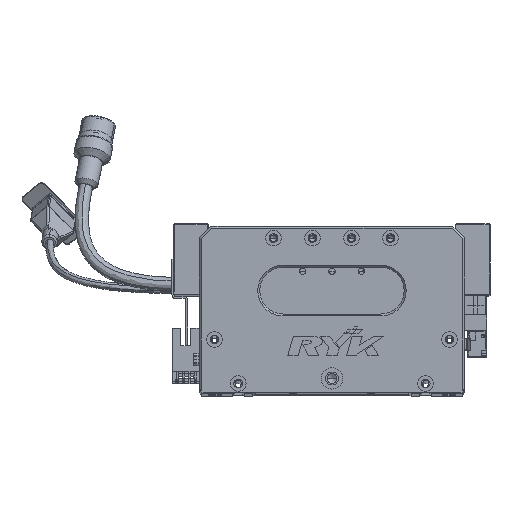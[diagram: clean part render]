
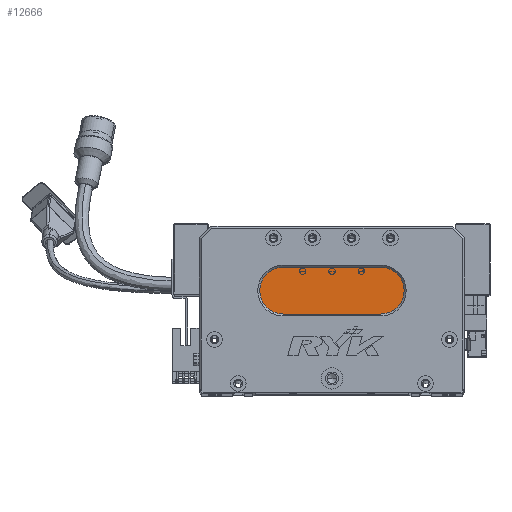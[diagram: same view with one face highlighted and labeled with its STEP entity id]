
A CAD part, top view. The second image highlights one B-rep face of the part: STEP entity #12666.
In plain terms, the highlighted planar face has unit normal (0, 0, 1) as drawn and (0, 0, -1) by its records, which use the part's own axes.
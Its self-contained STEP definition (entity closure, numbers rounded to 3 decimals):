
#350 = DIRECTION ( 'NONE',  ( -1., 0., 0. ) ) ;
#2346 = FACE_OUTER_BOUND ( 'NONE', #32888, .T. ) ;
#3706 = ORIENTED_EDGE ( 'NONE', *, *, #74663, .T. ) ;
#3775 = DIRECTION ( 'NONE',  ( 0., 0., -1. ) ) ;
#4453 = DIRECTION ( 'NONE',  ( -1., 0., 0. ) ) ;
#5861 = CARTESIAN_POINT ( 'NONE',  ( 43., 40., 13. ) ) ;
#7242 = VERTEX_POINT ( 'NONE', #39793 ) ;
#9461 = CARTESIAN_POINT ( 'NONE',  ( 43., 64., 13. ) ) ;
#10089 = CARTESIAN_POINT ( 'NONE',  ( 93., 64., 13. ) ) ;
#11402 = CARTESIAN_POINT ( 'NONE',  ( 43., 52., 13. ) ) ;
#12302 = DIRECTION ( 'NONE',  ( -1., 0., 0. ) ) ;
#12666 = ADVANCED_FACE ( 'NONE', ( #2346 ), #33090, .T. ) ;
#13002 = AXIS2_PLACEMENT_3D ( 'NONE', #11402, #43278, #24473 ) ;
#13544 = AXIS2_PLACEMENT_3D ( 'NONE', #43445, #29766, #4453 ) ;
#16700 = DIRECTION ( 'NONE',  ( 1., 0., 0. ) ) ;
#19123 = VERTEX_POINT ( 'NONE', #10089 ) ;
#22988 = AXIS2_PLACEMENT_3D ( 'NONE', #69498, #3775, #24272 ) ;
#24272 = DIRECTION ( 'NONE',  ( -1., 0., 0. ) ) ;
#24473 = DIRECTION ( 'NONE',  ( -1., 0., 0. ) ) ;
#25454 = VERTEX_POINT ( 'NONE', #30916 ) ;
#28002 = EDGE_CURVE ( 'NONE', #52467, #7242, #33734, .T. ) ;
#29766 = DIRECTION ( 'NONE',  ( 0., 0., -1. ) ) ;
#30916 = CARTESIAN_POINT ( 'NONE',  ( 93., 40., 13. ) ) ;
#32879 = ORIENTED_EDGE ( 'NONE', *, *, #39862, .T. ) ;
#32888 = EDGE_LOOP ( 'NONE', ( #69948, #32879, #61744, #54802, #3706 ) ) ;
#33090 = PLANE ( 'NONE',  #60519 ) ;
#33734 = CIRCLE ( 'NONE', #13544, 12. ) ;
#36598 = CARTESIAN_POINT ( 'NONE',  ( 93., 64., 13. ) ) ;
#39311 = DIRECTION ( 'NONE',  ( 0., 0., -1. ) ) ;
#39793 = CARTESIAN_POINT ( 'NONE',  ( 31., 52., 13. ) ) ;
#39862 = EDGE_CURVE ( 'NONE', #25454, #52467, #46419, .T. ) ;
#43278 = DIRECTION ( 'NONE',  ( 0., 0., -1. ) ) ;
#43427 = EDGE_CURVE ( 'NONE', #19123, #25454, #69349, .T. ) ;
#43445 = CARTESIAN_POINT ( 'NONE',  ( 43., 52., 13. ) ) ;
#44950 = CIRCLE ( 'NONE', #13002, 12. ) ;
#46134 = VECTOR ( 'NONE', #16700, 1000. ) ;
#46419 = LINE ( 'NONE', #57560, #79965 ) ;
#49353 = EDGE_CURVE ( 'NONE', #7242, #83260, #44950, .T. ) ;
#52467 = VERTEX_POINT ( 'NONE', #5861 ) ;
#54802 = ORIENTED_EDGE ( 'NONE', *, *, #49353, .T. ) ;
#57560 = CARTESIAN_POINT ( 'NONE',  ( 93., 40., 13. ) ) ;
#60519 = AXIS2_PLACEMENT_3D ( 'NONE', #78336, #39311, #350 ) ;
#61744 = ORIENTED_EDGE ( 'NONE', *, *, #28002, .T. ) ;
#69349 = CIRCLE ( 'NONE', #22988, 12. ) ;
#69498 = CARTESIAN_POINT ( 'NONE',  ( 93., 52., 13. ) ) ;
#69948 = ORIENTED_EDGE ( 'NONE', *, *, #43427, .T. ) ;
#74663 = EDGE_CURVE ( 'NONE', #83260, #19123, #78718, .T. ) ;
#78336 = CARTESIAN_POINT ( 'NONE',  ( 93., 52., 13. ) ) ;
#78718 = LINE ( 'NONE', #36598, #46134 ) ;
#79965 = VECTOR ( 'NONE', #12302, 1000. ) ;
#83260 = VERTEX_POINT ( 'NONE', #9461 ) ;
